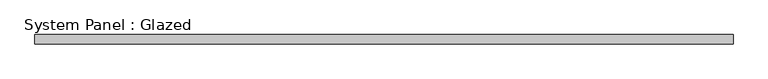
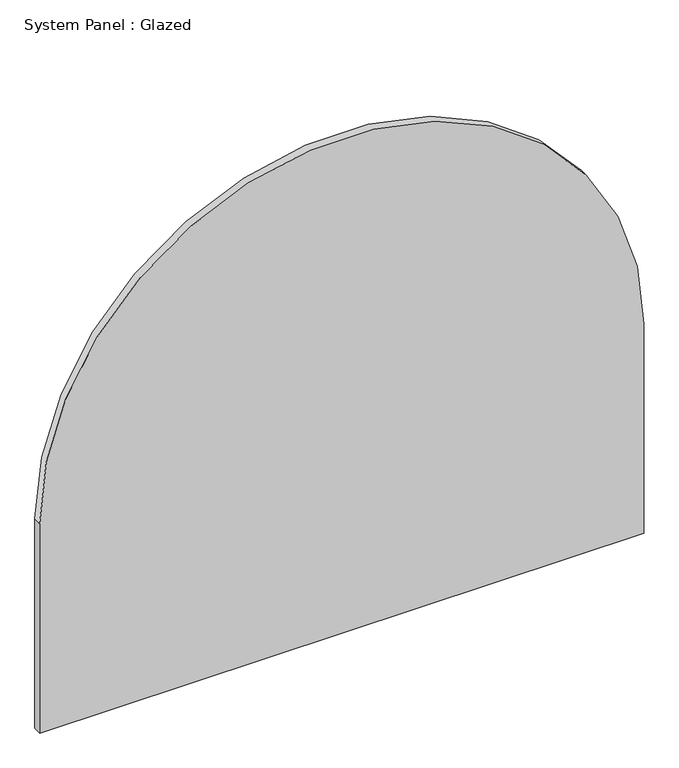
"""IFC4 building model written with IfcOpenShell, lengths in millimetres: plate geometry, System Panel : Glazed."""

from ifc_helpers import new_model, si_unit, point, frame, frame_2d, origin, place, context, project, spatial, polyline, circle_curve, trimmed, segment, composite_curve, outline, extrude, source, transform, mapped, element, save


def system_panel_glazed_47a2865e(model_context):
    return source(origin(), model_context, "Body", "SweptSolid", [
        extrude(outline(composite_curve([segment(polyline([(0.0, -936.5), (0.0, 936.5), (686.5269791, 936.5)]), True, "CONTINUOUS"), segment(trimmed(circle_curve(frame_2d((686.5269791, 0.0)), 936.5), [point((686.5269791, 936.5))], [point((686.5269791, -936.5))], False, "CARTESIAN"), True, "CONTINUOUS"), segment(polyline([(686.5269791, -936.5), (0.0, -936.5)]), True, "CONTINUOUS")], self_intersect=False)), frame((0.0, 19.05, 0.0), z_axis=(0.0, 1.0, 0.0), x_axis=(0.0, 0.0, 1.0)), (0.0, 0.0, 1.0), 25.4),
    ])


if __name__ == "__main__":
    model = new_model("IFC4")
    model_context = context("Model", 3, world=origin())
    ifc_project = project(units=[si_unit("LENGTHUNIT", "METRE", prefix="MILLI")], contexts=[model_context])
    site = spatial("IfcSite", under=ifc_project)
    building = spatial("IfcBuilding", under=site)
    placement = place(None, origin())
    system_panel_glazed_shape = system_panel_glazed_47a2865e(model_context)
    element("IfcPlate", 1, ObjectType="System Panel : Glazed", at=placement, inside=building, context=model_context, shape_type="MappedRepresentation", body=[
        mapped(system_panel_glazed_shape, transform((0.0, 0.0, 0.0), x_axis=(1.0, 0.0, 0.0), y_axis=(0.0, 1.0, 0.0), z_axis=(0.0, 0.0, 1.0))),
    ])
    save(model, "model.ifc")
